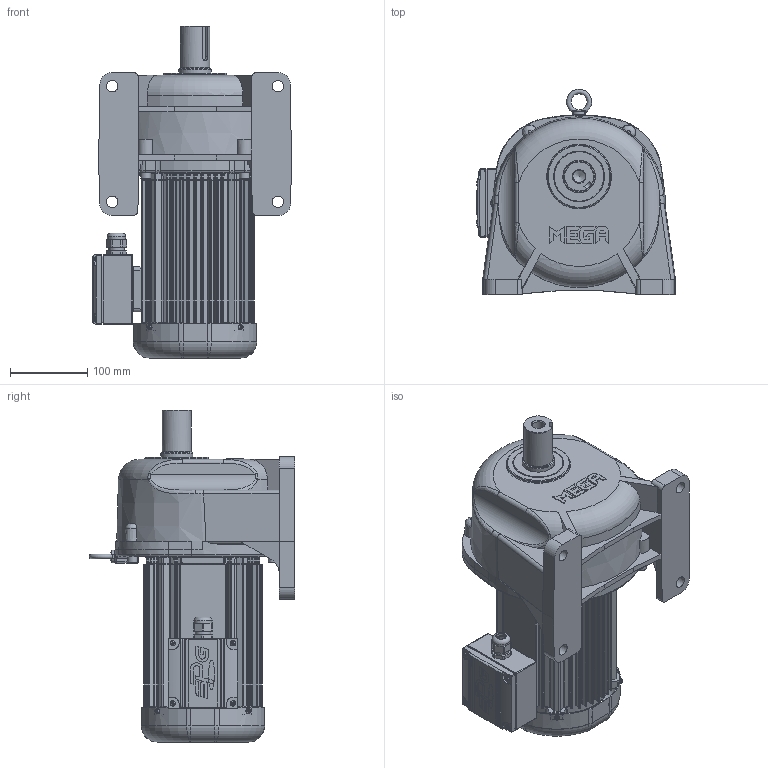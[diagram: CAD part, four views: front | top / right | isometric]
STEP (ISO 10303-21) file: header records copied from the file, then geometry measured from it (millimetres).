
FILE_DESCRIPTION(/* description */ (''),/* implementation_level */ '2;1');
FILE_NAME(/* name */ 'Z:\동력 3D 파일\PML153-(40~200)-PA(B)075[ ]L_(3D).stp',/* time_stamp */ '2021-08-11T10:55:16+09:00',/* author */ ('jaebok'),/* organization */ (''),/* preprocessor_version */ 'ST-DEVELOPER v18.1',/* originating_system */ 'Autodesk Inventor 2022',/* authorisation */ '');
FILE_SCHEMA (('AUTOMOTIVE_DESIGN { 1 0 10303 214 3 1 1 }'));
Length unit declared in the file: millimetre
Products named in the file (1): 부품1
Bounding box: 258 x 266.3 x 430.5 mm (x, y, z)
Volume: 3366677.9 mm3; surface area: 912897.1 mm2
Topology: 2 solids, 33 shells, 3308 faces, 8429 edges, 5061 vertices
Faces by surface type: plane 1026, cylinder 889, bspline 802, torus 327, cone 160, sphere 104
Full cylindrical faces by diameter (mm): 2 x1, 3.25 x1, 3.5 x4, 3.6 x4, 4 x21, 5 x13, 6 x4, 6.647 x4, 6.8 x1, 7 x13, 8 x13, 9 x4, 10 x1, 12.5 x1, 13 x4, 15 x5, 16 x1, 18 x1, 20 x2, 20.6 x1, 21 x2, 23.6 x1, 25 x1, 28 x1, 30 x1, 35 x1, 36 x1, 38 x1, 39.6 x1, 40 x1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
Entity records: 132151 total; most frequent: CARTESIAN_POINT 53921, ORIENTED_EDGE 16434, DIRECTION 14586, EDGE_CURVE 8217, AXIS2_PLACEMENT_3D 5883, VERTEX_POINT 5060, EDGE_LOOP 3503, FACE_OUTER_BOUND 3308
